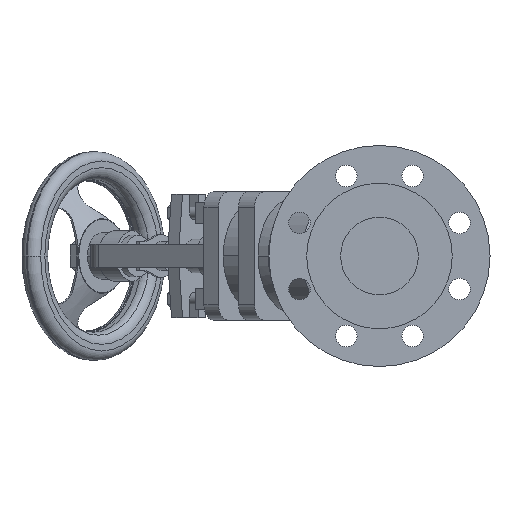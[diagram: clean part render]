
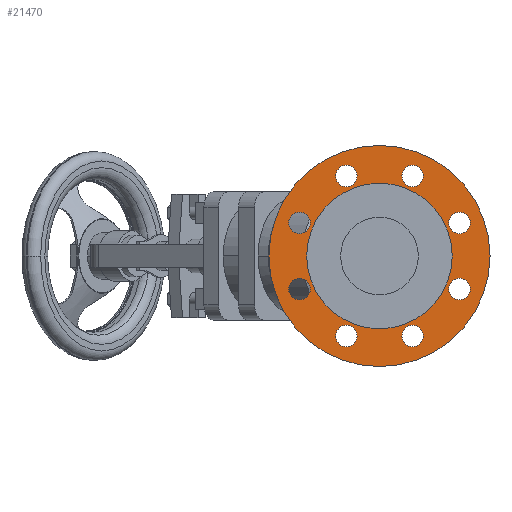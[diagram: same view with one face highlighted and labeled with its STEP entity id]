
A CAD part, left-side view. The second image highlights one B-rep face of the part: STEP entity #21470.
In plain terms, the highlighted planar face has unit normal (-1, 0, 0).
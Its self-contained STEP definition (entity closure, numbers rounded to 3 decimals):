
#4790=CARTESIAN_POINT('',(3.78,-60.88,0.));
#4800=VERTEX_POINT('',#4790);
#4960=CARTESIAN_POINT('',(3.78,60.88,0.));
#4970=VERTEX_POINT('',#4960);
#5000=CARTESIAN_POINT('',(3.78,0.,0.));
#5010=DIRECTION('',(-1.,0.,0.));
#5020=DIRECTION('',(0.,1.,0.));
#5030=AXIS2_PLACEMENT_3D('',#5000,#5010,#5020);
#5040=CIRCLE('',#5030,60.88);
#5050=EDGE_CURVE('',#4800,#4970,#5040,.T.);
#7430=CARTESIAN_POINT('',(3.78,0.,-92.5));
#7440=VERTEX_POINT('',#7430);
#7620=CARTESIAN_POINT('',(3.78,0.,92.5));
#7630=VERTEX_POINT('',#7620);
#7660=CARTESIAN_POINT('',(3.78,0.,0.));
#7670=DIRECTION('',(1.,0.,0.));
#7680=DIRECTION('',(0.,0.,-1.));
#7690=AXIS2_PLACEMENT_3D('',#7660,#7670,#7680);
#7700=CIRCLE('',#7690,92.5);
#7710=EDGE_CURVE('',#7440,#7630,#7700,.T.);
#7920=CARTESIAN_POINT('',(3.78,27.745,-75.981));
#7930=VERTEX_POINT('',#7920);
#8110=CARTESIAN_POINT('',(3.78,27.745,-57.981));
#8120=VERTEX_POINT('',#8110);
#8150=CARTESIAN_POINT('',(3.78,27.745,-66.981));
#8160=DIRECTION('',(-1.,0.,0.));
#8170=DIRECTION('',(0.,0.,-1.));
#8180=AXIS2_PLACEMENT_3D('',#8150,#8160,#8170);
#8190=CIRCLE('',#8180,9.);
#8200=EDGE_CURVE('',#7930,#8120,#8190,.T.);
#8410=CARTESIAN_POINT('',(3.78,-27.745,-57.981));
#8420=VERTEX_POINT('',#8410);
#8470=CARTESIAN_POINT('',(3.78,-27.745,-66.981));
#8480=DIRECTION('',(-1.,0.,0.));
#8490=DIRECTION('',(0.,0.,-1.));
#8500=AXIS2_PLACEMENT_3D('',#8470,#8480,#8490);
#8510=CIRCLE('',#8500,9.);
#8520=CARTESIAN_POINT('',(3.78,-27.745,-75.981));
#8530=VERTEX_POINT('',#8520);
#8540=EDGE_CURVE('',#8530,#8420,#8510,.T.);
#8900=CARTESIAN_POINT('',(3.78,66.981,-36.745));
#8910=VERTEX_POINT('',#8900);
#9090=CARTESIAN_POINT('',(3.78,66.981,-18.745));
#9100=VERTEX_POINT('',#9090);
#9130=CARTESIAN_POINT('',(3.78,66.981,-27.745));
#9140=DIRECTION('',(-1.,0.,0.));
#9150=DIRECTION('',(0.,0.,-1.));
#9160=AXIS2_PLACEMENT_3D('',#9130,#9140,#9150);
#9170=CIRCLE('',#9160,9.);
#9180=EDGE_CURVE('',#8910,#9100,#9170,.T.);
#9390=CARTESIAN_POINT('',(3.78,-66.981,-36.745));
#9400=VERTEX_POINT('',#9390);
#9450=CARTESIAN_POINT('',(3.78,-66.981,-27.745));
#9460=DIRECTION('',(-1.,0.,0.));
#9470=DIRECTION('',(0.,0.,-1.));
#9480=AXIS2_PLACEMENT_3D('',#9450,#9460,#9470);
#9490=CIRCLE('',#9480,9.);
#9500=CARTESIAN_POINT('',(3.78,-66.981,-18.745));
#9510=VERTEX_POINT('',#9500);
#9520=EDGE_CURVE('',#9510,#9400,#9490,.T.);
#9880=CARTESIAN_POINT('',(3.78,66.981,36.745));
#9890=VERTEX_POINT('',#9880);
#10070=CARTESIAN_POINT('',(3.78,66.981,18.745));
#10080=VERTEX_POINT('',#10070);
#10110=CARTESIAN_POINT('',(3.78,66.981,27.745));
#10120=DIRECTION('',(-1.,0.,0.));
#10130=DIRECTION('',(0.,0.,-1.));
#10140=AXIS2_PLACEMENT_3D('',#10110,#10120,#10130);
#10150=CIRCLE('',#10140,9.);
#10160=EDGE_CURVE('',#9890,#10080,#10150,.T.);
#10370=CARTESIAN_POINT('',(3.78,-66.981,18.745));
#10380=VERTEX_POINT('',#10370);
#10560=CARTESIAN_POINT('',(3.78,-66.981,36.745));
#10570=VERTEX_POINT('',#10560);
#10600=CARTESIAN_POINT('',(3.78,-66.981,27.745));
#10610=DIRECTION('',(-1.,0.,0.));
#10620=DIRECTION('',(0.,0.,-1.));
#10630=AXIS2_PLACEMENT_3D('',#10600,#10610,#10620);
#10640=CIRCLE('',#10630,9.);
#10650=EDGE_CURVE('',#10380,#10570,#10640,.T.);
#10860=CARTESIAN_POINT('',(3.78,27.745,57.981));
#10870=VERTEX_POINT('',#10860);
#10920=CARTESIAN_POINT('',(3.78,27.745,66.981));
#10930=DIRECTION('',(-1.,0.,0.));
#10940=DIRECTION('',(0.,0.,-1.));
#10950=AXIS2_PLACEMENT_3D('',#10920,#10930,#10940);
#10960=CIRCLE('',#10950,9.);
#10970=CARTESIAN_POINT('',(3.78,27.745,75.981));
#10980=VERTEX_POINT('',#10970);
#10990=EDGE_CURVE('',#10980,#10870,#10960,.T.);
#11350=CARTESIAN_POINT('',(3.78,-27.745,75.981));
#11360=VERTEX_POINT('',#11350);
#11410=CARTESIAN_POINT('',(3.78,-27.745,66.981));
#11420=DIRECTION('',(-1.,0.,0.));
#11430=DIRECTION('',(0.,0.,-1.));
#11440=AXIS2_PLACEMENT_3D('',#11410,#11420,#11430);
#11450=CIRCLE('',#11440,9.);
#11460=CARTESIAN_POINT('',(3.78,-27.745,57.981));
#11470=VERTEX_POINT('',#11460);
#11480=EDGE_CURVE('',#11470,#11360,#11450,.T.);
#20920=CARTESIAN_POINT('',(3.78,0.,0.));
#20930=DIRECTION('',(1.,0.,0.));
#20940=DIRECTION('',(0.,0.,-1.));
#20950=AXIS2_PLACEMENT_3D('',#20920,#20930,#20940);
#20960=PLANE('',#20950);
#20970=EDGE_CURVE('',#11360,#11470,#11450,.T.);
#20980=ORIENTED_EDGE('',*,*,#20970,.F.);
#20990=ORIENTED_EDGE('',*,*,#11480,.F.);
#21000=EDGE_LOOP('',(#20990,#20980));
#21010=FACE_BOUND('',#21000,.T.);
#21020=EDGE_CURVE('',#10870,#10980,#10960,.T.);
#21030=ORIENTED_EDGE('',*,*,#21020,.F.);
#21040=ORIENTED_EDGE('',*,*,#10990,.F.);
#21050=EDGE_LOOP('',(#21040,#21030));
#21060=FACE_BOUND('',#21050,.T.);
#21070=EDGE_CURVE('',#10570,#10380,#10640,.T.);
#21080=ORIENTED_EDGE('',*,*,#21070,.F.);
#21090=ORIENTED_EDGE('',*,*,#10650,.F.);
#21100=EDGE_LOOP('',(#21090,#21080));
#21110=FACE_BOUND('',#21100,.T.);
#21120=EDGE_CURVE('',#10080,#9890,#10150,.T.);
#21130=ORIENTED_EDGE('',*,*,#21120,.F.);
#21140=ORIENTED_EDGE('',*,*,#10160,.F.);
#21150=EDGE_LOOP('',(#21140,#21130));
#21160=FACE_BOUND('',#21150,.T.);
#21170=ORIENTED_EDGE('',*,*,#9520,.F.);
#21180=EDGE_CURVE('',#9400,#9510,#9490,.T.);
#21190=ORIENTED_EDGE('',*,*,#21180,.F.);
#21200=EDGE_LOOP('',(#21190,#21170));
#21210=FACE_BOUND('',#21200,.T.);
#21220=EDGE_CURVE('',#9100,#8910,#9170,.T.);
#21230=ORIENTED_EDGE('',*,*,#21220,.F.);
#21240=ORIENTED_EDGE('',*,*,#9180,.F.);
#21250=EDGE_LOOP('',(#21240,#21230));
#21260=FACE_BOUND('',#21250,.T.);
#21270=ORIENTED_EDGE('',*,*,#8540,.F.);
#21280=EDGE_CURVE('',#8420,#8530,#8510,.T.);
#21290=ORIENTED_EDGE('',*,*,#21280,.F.);
#21300=EDGE_LOOP('',(#21290,#21270));
#21310=FACE_BOUND('',#21300,.T.);
#21320=EDGE_CURVE('',#8120,#7930,#8190,.T.);
#21330=ORIENTED_EDGE('',*,*,#21320,.F.);
#21340=ORIENTED_EDGE('',*,*,#8200,.F.);
#21350=EDGE_LOOP('',(#21340,#21330));
#21360=FACE_BOUND('',#21350,.T.);
#21370=EDGE_CURVE('',#7630,#7440,#7700,.T.);
#21380=ORIENTED_EDGE('',*,*,#21370,.F.);
#21390=ORIENTED_EDGE('',*,*,#7710,.F.);
#21400=EDGE_LOOP('',(#21390,#21380));
#21410=FACE_OUTER_BOUND('',#21400,.T.);
#21420=EDGE_CURVE('',#4970,#4800,#5040,.T.);
#21430=ORIENTED_EDGE('',*,*,#21420,.F.);
#21440=ORIENTED_EDGE('',*,*,#5050,.F.);
#21450=EDGE_LOOP('',(#21440,#21430));
#21460=FACE_BOUND('',#21450,.T.);
#21470=ADVANCED_FACE('',(#21010,#21060,#21110,#21160,#21210,#21260,
#21310,#21360,#21410,#21460),#20960,.F.);
